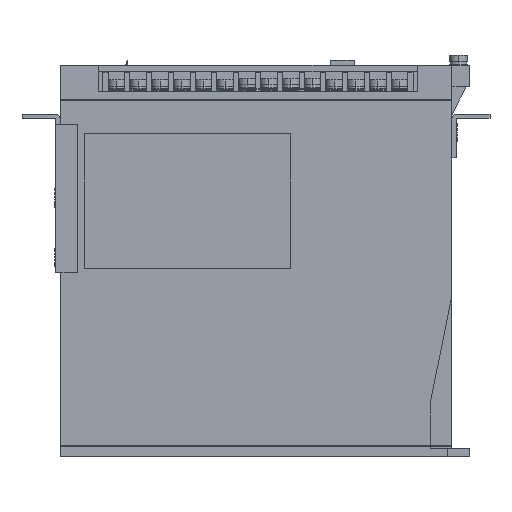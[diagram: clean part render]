
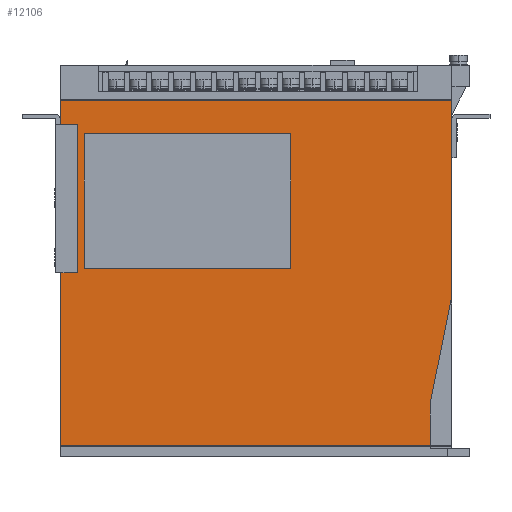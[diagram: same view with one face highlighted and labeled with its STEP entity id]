
A CAD part, left-side view. The second image highlights one B-rep face of the part: STEP entity #12106.
In plain terms, the highlighted planar face has unit normal (-1, 0, 0).
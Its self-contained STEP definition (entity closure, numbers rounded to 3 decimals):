
#7254 = VERTEX_POINT ( 'NONE', #33481 ) ;
#7291 = EDGE_CURVE ( 'NONE', #7254, #7293, #33553, .T. ) ;
#7293 = VERTEX_POINT ( 'NONE', #33549 ) ;
#11990 = EDGE_LOOP ( 'NONE', ( #12109, #12032, #12037, #12043 ) ) ;
#12003 = EDGE_CURVE ( 'NONE', #7293, #12004, #41238, .T. ) ;
#12004 = VERTEX_POINT ( 'NONE', #41234 ) ;
#12032 = ORIENTED_EDGE ( 'NONE', *, *, #12034, .F. ) ;
#12034 = EDGE_CURVE ( 'NONE', #12035, #12112, #41257, .T. ) ;
#12035 = VERTEX_POINT ( 'NONE', #41253 ) ;
#12037 = ORIENTED_EDGE ( 'NONE', *, *, #12039, .F. ) ;
#12039 = EDGE_CURVE ( 'NONE', #12041, #12035, #41000, .T. ) ;
#12041 = VERTEX_POINT ( 'NONE', #41308 ) ;
#12043 = ORIENTED_EDGE ( 'NONE', *, *, #12074, .F. ) ;
#12045 = EDGE_LOOP ( 'NONE', ( #12076, #12083, #12090, #12094, #12097, #12099 ) ) ;
#12074 = EDGE_CURVE ( 'NONE', #12114, #12041, #41318, .T. ) ;
#12076 = ORIENTED_EDGE ( 'NONE', *, *, #12078, .T. ) ;
#12078 = EDGE_CURVE ( 'NONE', #12080, #12082, #41373, .T. ) ;
#12080 = VERTEX_POINT ( 'NONE', #41368 ) ;
#12082 = VERTEX_POINT ( 'NONE', #41366 ) ;
#12083 = ORIENTED_EDGE ( 'NONE', *, *, #12085, .F. ) ;
#12085 = EDGE_CURVE ( 'NONE', #12087, #12082, #41365, .T. ) ;
#12087 = VERTEX_POINT ( 'NONE', #41357 ) ;
#12090 = ORIENTED_EDGE ( 'NONE', *, *, #12092, .T. ) ;
#12092 = EDGE_CURVE ( 'NONE', #12087, #12004, #41351, .T. ) ;
#12094 = ORIENTED_EDGE ( 'NONE', *, *, #12003, .F. ) ;
#12097 = ORIENTED_EDGE ( 'NONE', *, *, #7291, .F. ) ;
#12099 = ORIENTED_EDGE ( 'NONE', *, *, #12101, .T. ) ;
#12101 = EDGE_CURVE ( 'NONE', #7254, #12080, #41406, .T. ) ;
#12106 = ADVANCED_FACE ( 'NONE', ( #41394, #41393 ), #41392, .F. ) ;
#12109 = ORIENTED_EDGE ( 'NONE', *, *, #12111, .F. ) ;
#12111 = EDGE_CURVE ( 'NONE', #12112, #12114, #41382, .T. ) ;
#12112 = VERTEX_POINT ( 'NONE', #41378 ) ;
#12114 = VERTEX_POINT ( 'NONE', #41443 ) ;
#33481 = CARTESIAN_POINT ( 'NONE',  ( -95., 5., 163.8 ) ) ;
#33549 = CARTESIAN_POINT ( 'NONE',  ( -95., -175., 163.8 ) ) ;
#33550 = DIRECTION ( 'NONE',  ( 0., -1., 0. ) ) ;
#33551 = VECTOR ( 'NONE', #33550, 1000. ) ;
#33552 = CARTESIAN_POINT ( 'NONE',  ( -95., 5., 163.8 ) ) ;
#33553 = LINE ( 'NONE', #33552, #33551 ) ;
#40995 = CARTESIAN_POINT ( 'NONE',  ( -95., -6., 86.5 ) ) ;
#41000 = LINE ( 'NONE', #40995, #41314 ) ;
#41234 = CARTESIAN_POINT ( 'NONE',  ( -95., -175., 74.4 ) ) ;
#41235 = DIRECTION ( 'NONE',  ( 0., 0., -1. ) ) ;
#41236 = VECTOR ( 'NONE', #41235, 1000. ) ;
#41237 = CARTESIAN_POINT ( 'NONE',  ( -95., -175., 369.913 ) ) ;
#41238 = LINE ( 'NONE', #41237, #41236 ) ;
#41253 = CARTESIAN_POINT ( 'NONE',  ( -95., -6., 86.5 ) ) ;
#41254 = DIRECTION ( 'NONE',  ( 0., -1., 0. ) ) ;
#41255 = VECTOR ( 'NONE', #41254, 1000. ) ;
#41256 = CARTESIAN_POINT ( 'NONE',  ( -95., -6., 86.5 ) ) ;
#41257 = LINE ( 'NONE', #41256, #41255 ) ;
#41308 = CARTESIAN_POINT ( 'NONE',  ( -95., -6., 148.5 ) ) ;
#41313 = DIRECTION ( 'NONE',  ( 0., 0., -1. ) ) ;
#41314 = VECTOR ( 'NONE', #41313, 1000. ) ;
#41315 = DIRECTION ( 'NONE',  ( 0., 1., 0. ) ) ;
#41316 = VECTOR ( 'NONE', #41315, 1000. ) ;
#41317 = CARTESIAN_POINT ( 'NONE',  ( -95., -6., 148.5 ) ) ;
#41318 = LINE ( 'NONE', #41317, #41316 ) ;
#41348 = DIRECTION ( 'NONE',  ( 0., -0.196, 0.981 ) ) ;
#41349 = VECTOR ( 'NONE', #41348, 1000. ) ;
#41350 = CARTESIAN_POINT ( 'NONE',  ( -95., -165., 24.4 ) ) ;
#41351 = LINE ( 'NONE', #41350, #41349 ) ;
#41357 = CARTESIAN_POINT ( 'NONE',  ( -95., -165., 24.4 ) ) ;
#41362 = DIRECTION ( 'NONE',  ( 0., 0., -1. ) ) ;
#41363 = VECTOR ( 'NONE', #41362, 1000. ) ;
#41364 = CARTESIAN_POINT ( 'NONE',  ( -95., -165., 24.4 ) ) ;
#41365 = LINE ( 'NONE', #41364, #41363 ) ;
#41366 = CARTESIAN_POINT ( 'NONE',  ( -95., -165., 5.2 ) ) ;
#41368 = CARTESIAN_POINT ( 'NONE',  ( -95., 5., 5.2 ) ) ;
#41370 = DIRECTION ( 'NONE',  ( 0., -1., 0. ) ) ;
#41371 = VECTOR ( 'NONE', #41370, 1000. ) ;
#41372 = CARTESIAN_POINT ( 'NONE',  ( -95., 5., 5.2 ) ) ;
#41373 = LINE ( 'NONE', #41372, #41371 ) ;
#41378 = CARTESIAN_POINT ( 'NONE',  ( -95., -101., 86.5 ) ) ;
#41379 = DIRECTION ( 'NONE',  ( 0., 0., 1. ) ) ;
#41380 = VECTOR ( 'NONE', #41379, 1000. ) ;
#41381 = CARTESIAN_POINT ( 'NONE',  ( -95., -101., 86.5 ) ) ;
#41382 = LINE ( 'NONE', #41381, #41380 ) ;
#41388 = DIRECTION ( 'NONE',  ( 0., 0., -1. ) ) ;
#41389 = DIRECTION ( 'NONE',  ( 1., 0., 0. ) ) ;
#41390 = CARTESIAN_POINT ( 'NONE',  ( -95., 5., 369.913 ) ) ;
#41391 = AXIS2_PLACEMENT_3D ( 'NONE', #41390, #41389, #41388 ) ;
#41392 = PLANE ( 'NONE',  #41391 ) ;
#41393 = FACE_OUTER_BOUND ( 'NONE', #12045, .T. ) ;
#41394 = FACE_BOUND ( 'NONE', #11990, .T. ) ;
#41403 = DIRECTION ( 'NONE',  ( 0., 0., -1. ) ) ;
#41404 = VECTOR ( 'NONE', #41403, 1000. ) ;
#41405 = CARTESIAN_POINT ( 'NONE',  ( -95., 5., 369.913 ) ) ;
#41406 = LINE ( 'NONE', #41405, #41404 ) ;
#41443 = CARTESIAN_POINT ( 'NONE',  ( -95., -101., 148.5 ) ) ;
